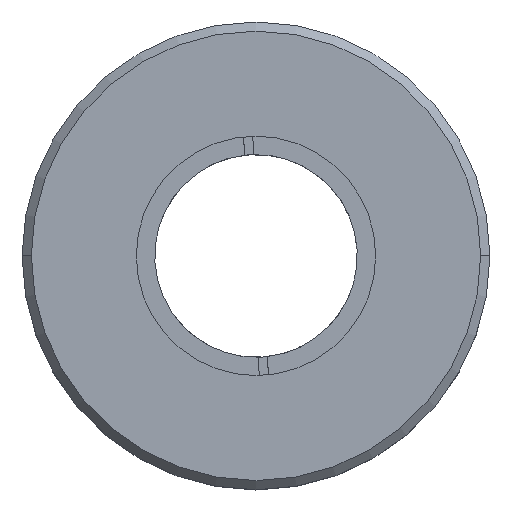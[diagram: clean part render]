
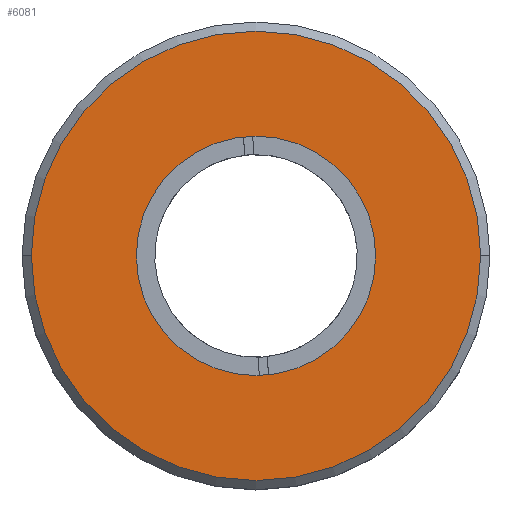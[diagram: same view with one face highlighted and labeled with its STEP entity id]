
A CAD part, top view. The second image highlights one B-rep face of the part: STEP entity #6081.
In plain terms, the highlighted planar face has unit normal (0, 0, 1).
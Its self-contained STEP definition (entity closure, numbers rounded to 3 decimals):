
#273 = CIRCLE ( 'NONE', #5158, 13. ) ;
#310 = CIRCLE ( 'NONE', #6490, 24.4 ) ;
#333 = DIRECTION ( 'NONE',  ( 1., 0., 0. ) ) ;
#577 = VERTEX_POINT ( 'NONE', #798 ) ;
#632 = ORIENTED_EDGE ( 'NONE', *, *, #4143, .T. ) ;
#798 = CARTESIAN_POINT ( 'NONE',  ( -21.119, -2.293, 59.5 ) ) ;
#813 = AXIS2_PLACEMENT_3D ( 'NONE', #1144, #5836, #4757 ) ;
#1144 = CARTESIAN_POINT ( 'NONE',  ( -8.119, -2.293, 59.5 ) ) ;
#1447 = CARTESIAN_POINT ( 'NONE',  ( -8.119, -2.293, 59.5 ) ) ;
#1521 = ORIENTED_EDGE ( 'NONE', *, *, #5839, .T. ) ;
#1603 = VERTEX_POINT ( 'NONE', #1712 ) ;
#1712 = CARTESIAN_POINT ( 'NONE',  ( 4.881, -2.293, 59.5 ) ) ;
#1762 = AXIS2_PLACEMENT_3D ( 'NONE', #1447, #5750, #4627 ) ;
#2042 = VERTEX_POINT ( 'NONE', #5331 ) ;
#2639 = AXIS2_PLACEMENT_3D ( 'NONE', #4552, #5002, #333 ) ;
#2743 = ORIENTED_EDGE ( 'NONE', *, *, #4454, .F. ) ;
#2755 = EDGE_CURVE ( 'NONE', #577, #1603, #273, .T. ) ;
#2822 = DIRECTION ( 'NONE',  ( 0., 0., 1. ) ) ;
#3027 = CARTESIAN_POINT ( 'NONE',  ( -8.119, -2.293, 59.5 ) ) ;
#3232 = CARTESIAN_POINT ( 'NONE',  ( -8.119, -2.293, 59.5 ) ) ;
#3753 = CIRCLE ( 'NONE', #813, 13. ) ;
#3786 = EDGE_LOOP ( 'NONE', ( #632, #1521 ) ) ;
#4020 = CARTESIAN_POINT ( 'NONE',  ( -32.519, -2.293, 59.5 ) ) ;
#4047 = FACE_BOUND ( 'NONE', #4489, .T. ) ;
#4143 = EDGE_CURVE ( 'NONE', #4953, #2042, #5392, .T. ) ;
#4454 = EDGE_CURVE ( 'NONE', #1603, #577, #3753, .T. ) ;
#4489 = EDGE_LOOP ( 'NONE', ( #2743, #5621 ) ) ;
#4552 = CARTESIAN_POINT ( 'NONE',  ( -8.119, -2.293, 59.5 ) ) ;
#4560 = FACE_OUTER_BOUND ( 'NONE', #3786, .T. ) ;
#4627 = DIRECTION ( 'NONE',  ( 1., 0., 0. ) ) ;
#4745 = DIRECTION ( 'NONE',  ( 0., 0., 1. ) ) ;
#4757 = DIRECTION ( 'NONE',  ( 1., 0., 0. ) ) ;
#4953 = VERTEX_POINT ( 'NONE', #4020 ) ;
#5002 = DIRECTION ( 'NONE',  ( 0., 0., 1. ) ) ;
#5158 = AXIS2_PLACEMENT_3D ( 'NONE', #3027, #4745, #5732 ) ;
#5331 = CARTESIAN_POINT ( 'NONE',  ( 16.281, -2.293, 59.5 ) ) ;
#5392 = CIRCLE ( 'NONE', #2639, 24.4 ) ;
#5621 = ORIENTED_EDGE ( 'NONE', *, *, #2755, .F. ) ;
#5732 = DIRECTION ( 'NONE',  ( 1., 0., 0. ) ) ;
#5750 = DIRECTION ( 'NONE',  ( 0., 0., 1. ) ) ;
#5819 = DIRECTION ( 'NONE',  ( 1., 0., 0. ) ) ;
#5836 = DIRECTION ( 'NONE',  ( 0., 0., 1. ) ) ;
#5839 = EDGE_CURVE ( 'NONE', #2042, #4953, #310, .T. ) ;
#6081 = ADVANCED_FACE ( 'NONE', ( #4560, #4047 ), #6108, .T. ) ;
#6108 = PLANE ( 'NONE',  #1762 ) ;
#6490 = AXIS2_PLACEMENT_3D ( 'NONE', #3232, #2822, #5819 ) ;
